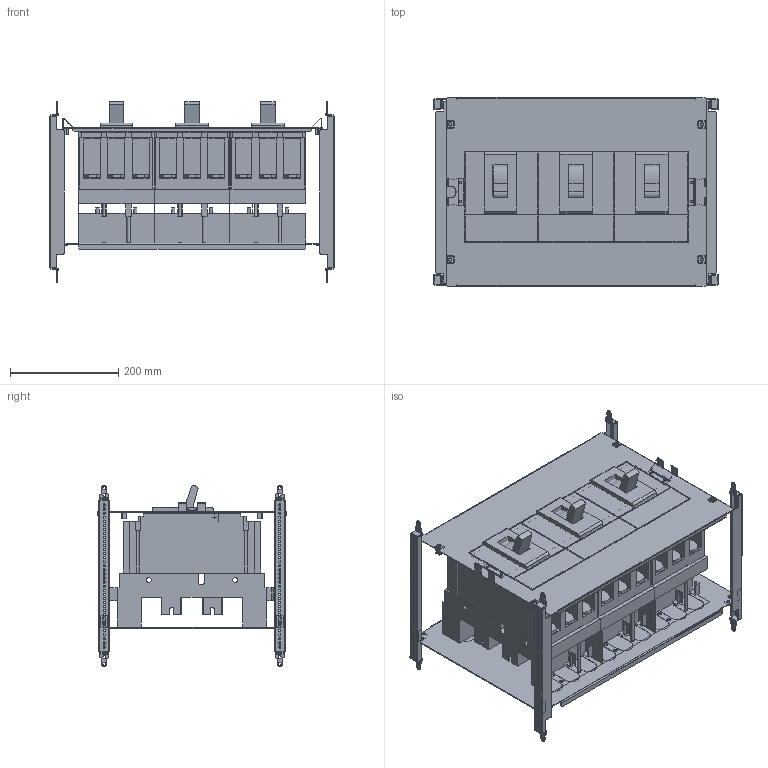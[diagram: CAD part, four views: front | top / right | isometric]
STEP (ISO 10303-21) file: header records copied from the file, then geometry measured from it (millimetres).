
FILE_DESCRIPTION(('CAx-IF Rec.Pracs.---Model Styling and Organization---1.2---2011-12-15','CAx-IF Rec.Pracs.---Geometric and Assembly Validation Properties---4.1---2014-06-16','CAx-IF Rec.Pracs.---PMI Polyline Presentation---2.0---2013-05-24'),'2;1');
FILE_NAME('R5PKIB7V63016 (P).stp','2021-07-29T03:15:13+03:00',(''),(''),'STEP Interface 4.4 by CT CoreTechnologie','3D_Evolution4.4 by CT CoreTechnologie','');
FILE_SCHEMA(('AUTOMOTIVE_DESIGN { 1 0 10303 214 1 1 1 1 }'));
Length unit declared in the file: millimetre
Products named in the file (1): R5PKIB7V63016 (P)
Bounding box: 526 x 348 x 335 mm (x, y, z)
Surface area: 2064830.5 mm2 (no closed solid volume)
Topology: 0 solids, 93 shells, 2755 faces, 7897 edges, 5332 vertices
Faces by surface type: plane 1778, cylinder 813, bspline 164
Entity records: 91886 total; most frequent: CARTESIAN_POINT 17881, ORIENTED_EDGE 15356, DIRECTION 14908, EDGE_CURVE 7845, VECTOR 5906, LINE 5906, VERTEX_POINT 5338, AXIS2_PLACEMENT_3D 4501
